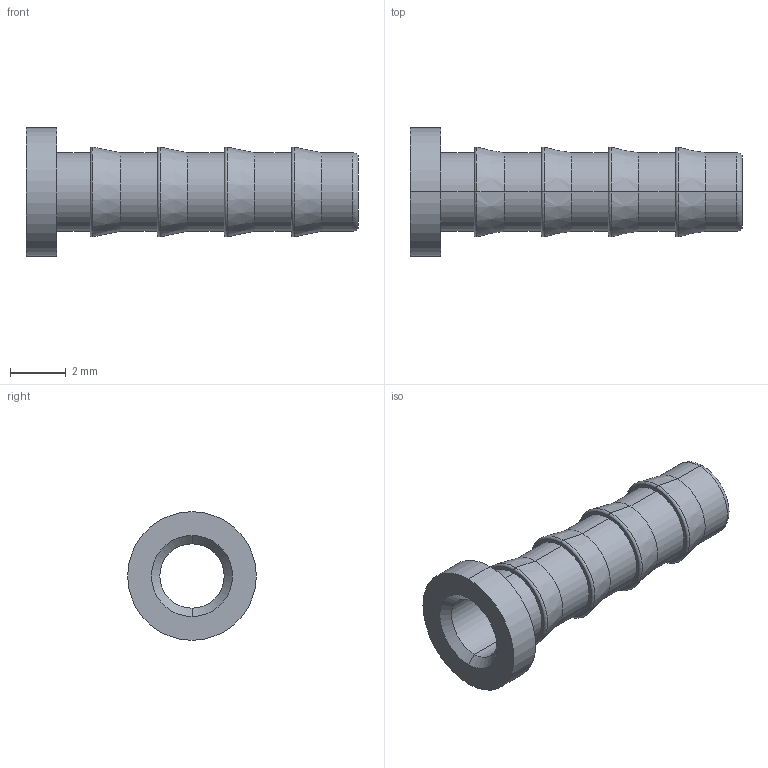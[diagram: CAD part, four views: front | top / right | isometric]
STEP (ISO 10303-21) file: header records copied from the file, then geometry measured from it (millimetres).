
FILE_DESCRIPTION (( 'STEP AP203' ), '1' );
FILE_NAME ('DTI03-02 SS.STEP', '2009-09-08T09:58:05', ( ' ' ), ( '' ), 'SwSTEP 2.0', 'SolidWorks 2008', '' );
FILE_SCHEMA (( 'CONFIG_CONTROL_DESIGN' ));
Length unit declared in the file: millimetre
Products named in the file (1): DTI03-02 SS
Bounding box: 11.88 x 4.6 x 4.6 mm (x, y, z)
Volume: 39.6 mm3; surface area: 229.4 mm2
Topology: 1 solids, 1 shells, 42 faces, 84 edges, 48 vertices
Faces by surface type: cylinder 14, cone 12, torus 10, plane 6
Entity records: 1175 total; most frequent: DIRECTION 228, CARTESIAN_POINT 175, ORIENTED_EDGE 168, AXIS2_PLACEMENT_3D 101, EDGE_CURVE 84, CIRCLE 58, VERTEX_POINT 48, EDGE_LOOP 48
